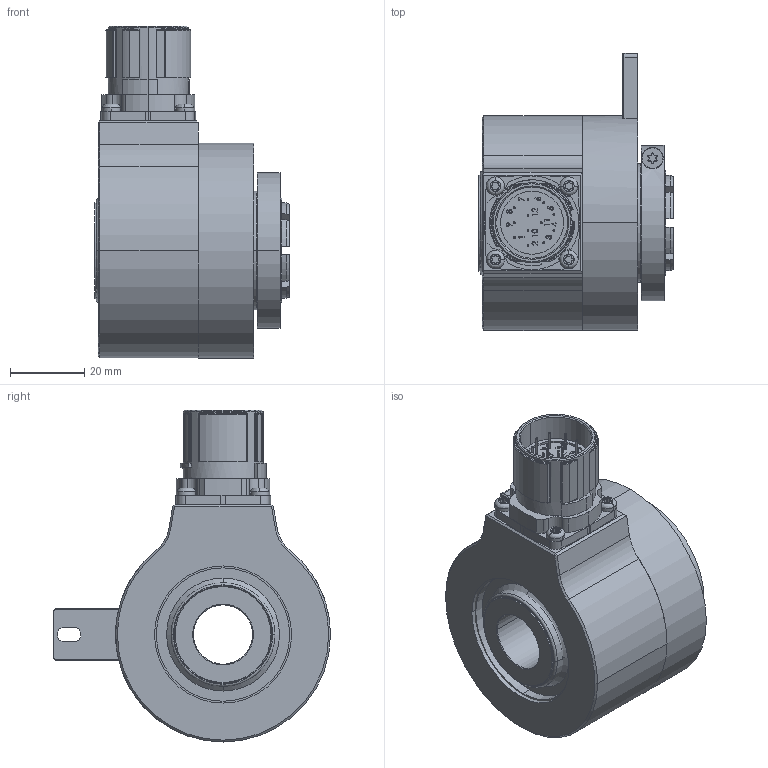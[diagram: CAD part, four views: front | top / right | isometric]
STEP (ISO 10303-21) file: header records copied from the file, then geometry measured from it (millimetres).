
FILE_DESCRIPTION (( 'STEP AP203' ), '1' );
FILE_NAME ('K58I.OXX.XXXXX.XH27516.XXRC4.step', '2025-12-03T10:03:32', ( '' ), ( '' ), 'SwSTEP 2.0', 'SolidWorks 2021', '' );
FILE_SCHEMA (( 'CONFIG_CONTROL_DESIGN' ));
Length unit declared in the file: millimetre
Products named in the file (1): K58I.OXX.XXXXX.XH27516.XXRC4
Bounding box: 52.4 x 74.75 x 89.6 mm (x, y, z)
Volume: 125723.5 mm3; surface area: 49982.1 mm2
Topology: 8 solids, 8 shells, 840 faces, 2205 edges, 1406 vertices
Faces by surface type: plane 312, cylinder 295, bspline 96, cone 71, sphere 34, torus 32
Entity records: 31838 total; most frequent: CARTESIAN_POINT 11428, ORIENTED_EDGE 4326, DIRECTION 4154, EDGE_CURVE 2163, AXIS2_PLACEMENT_3D 1541, VERTEX_POINT 1403, VECTOR 1072, LINE 1072
